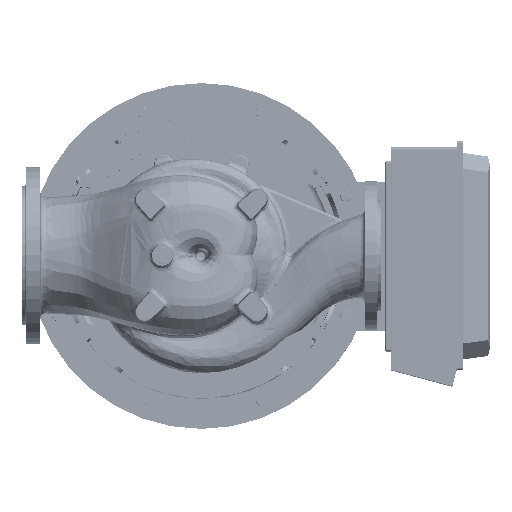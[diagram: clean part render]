
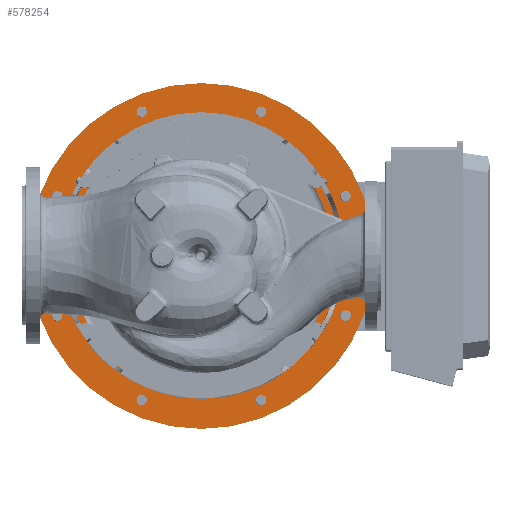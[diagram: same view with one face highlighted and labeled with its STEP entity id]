
A CAD part, top view. The second image highlights one B-rep face of the part: STEP entity #578254.
In plain terms, the highlighted planar face has unit normal (0, 0, 1) as drawn and (0, 1, 0) by its records, which use the part's own axes.
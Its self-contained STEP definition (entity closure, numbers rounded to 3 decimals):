
#577793=CARTESIAN_POINT('',(0.,25.,0.));
#577794=DIRECTION('',(0.,-1.,0.));
#577795=DIRECTION('',(1.,0.,0.));
#577796=AXIS2_PLACEMENT_3D('',#577793,#577794,#577795);
#577798=CARTESIAN_POINT('',(0.,25.,0.));
#577799=DIRECTION('',(0.,-1.,0.));
#577800=DIRECTION('',(-1.,0.,0.));
#577801=AXIS2_PLACEMENT_3D('',#577798,#577799,#577800);
#577803=CARTESIAN_POINT('',(0.,25.,0.));
#577804=DIRECTION('',(0.,1.,0.));
#577805=DIRECTION('',(0.,0.,1.));
#577806=AXIS2_PLACEMENT_3D('',#577803,#577804,#577805);
#577808=CARTESIAN_POINT('',(0.,25.,0.));
#577809=DIRECTION('',(0.,1.,0.));
#577810=DIRECTION('',(0.,0.,-1.));
#577811=AXIS2_PLACEMENT_3D('',#577808,#577809,#577810);
#577813=CARTESIAN_POINT('',(114.805,25.,277.164));
#577814=DIRECTION('',(0.,-1.,0.));
#577815=DIRECTION('',(-1.,0.,0.));
#577816=AXIS2_PLACEMENT_3D('',#577813,#577814,#577815);
#577818=CARTESIAN_POINT('',(114.805,25.,277.164));
#577819=DIRECTION('',(0.,-1.,0.));
#577820=DIRECTION('',(1.,0.,0.));
#577821=AXIS2_PLACEMENT_3D('',#577818,#577819,#577820);
#577823=CARTESIAN_POINT('',(277.164,25.,114.805));
#577824=DIRECTION('',(0.,-1.,0.));
#577825=DIRECTION('',(-0.707,0.,0.707));
#577826=AXIS2_PLACEMENT_3D('',#577823,#577824,#577825);
#577828=CARTESIAN_POINT('',(277.164,25.,114.805));
#577829=DIRECTION('',(0.,-1.,0.));
#577830=DIRECTION('',(0.707,0.,-0.707));
#577831=AXIS2_PLACEMENT_3D('',#577828,#577829,#577830);
#577833=CARTESIAN_POINT('',(277.164,25.,-114.805));
#577834=DIRECTION('',(0.,-1.,0.));
#577835=DIRECTION('',(0.,0.,1.));
#577836=AXIS2_PLACEMENT_3D('',#577833,#577834,#577835);
#577838=CARTESIAN_POINT('',(277.164,25.,-114.805));
#577839=DIRECTION('',(0.,-1.,0.));
#577840=DIRECTION('',(0.,0.,-1.));
#577841=AXIS2_PLACEMENT_3D('',#577838,#577839,#577840);
#577843=CARTESIAN_POINT('',(114.805,25.,-277.164));
#577844=DIRECTION('',(0.,-1.,0.));
#577845=DIRECTION('',(0.707,0.,0.707));
#577846=AXIS2_PLACEMENT_3D('',#577843,#577844,#577845);
#577848=CARTESIAN_POINT('',(114.805,25.,-277.164));
#577849=DIRECTION('',(0.,-1.,0.));
#577850=DIRECTION('',(-0.707,0.,-0.707));
#577851=AXIS2_PLACEMENT_3D('',#577848,#577849,#577850);
#577853=CARTESIAN_POINT('',(-114.805,25.,-277.164));
#577854=DIRECTION('',(0.,-1.,0.));
#577855=DIRECTION('',(1.,0.,0.));
#577856=AXIS2_PLACEMENT_3D('',#577853,#577854,#577855);
#577858=CARTESIAN_POINT('',(-114.805,25.,-277.164));
#577859=DIRECTION('',(0.,-1.,0.));
#577860=DIRECTION('',(-1.,0.,0.));
#577861=AXIS2_PLACEMENT_3D('',#577858,#577859,#577860);
#577863=CARTESIAN_POINT('',(-277.164,25.,-114.805));
#577864=DIRECTION('',(0.,-1.,0.));
#577865=DIRECTION('',(0.707,0.,-0.707));
#577866=AXIS2_PLACEMENT_3D('',#577863,#577864,#577865);
#577868=CARTESIAN_POINT('',(-277.164,25.,-114.805));
#577869=DIRECTION('',(0.,-1.,0.));
#577870=DIRECTION('',(-0.707,0.,0.707));
#577871=AXIS2_PLACEMENT_3D('',#577868,#577869,#577870);
#577873=CARTESIAN_POINT('',(-277.164,25.,114.805));
#577874=DIRECTION('',(0.,-1.,0.));
#577875=DIRECTION('',(0.,0.,-1.));
#577876=AXIS2_PLACEMENT_3D('',#577873,#577874,#577875);
#577878=CARTESIAN_POINT('',(-277.164,25.,114.805));
#577879=DIRECTION('',(0.,-1.,0.));
#577880=DIRECTION('',(0.,0.,1.));
#577881=AXIS2_PLACEMENT_3D('',#577878,#577879,#577880);
#577883=CARTESIAN_POINT('',(-114.805,25.,277.164));
#577884=DIRECTION('',(0.,-1.,0.));
#577885=DIRECTION('',(-0.707,0.,-0.707));
#577886=AXIS2_PLACEMENT_3D('',#577883,#577884,#577885);
#577888=CARTESIAN_POINT('',(-114.805,25.,277.164));
#577889=DIRECTION('',(0.,-1.,0.));
#577890=DIRECTION('',(0.707,0.,0.707));
#577891=AXIS2_PLACEMENT_3D('',#577888,#577889,#577890);
#578101=CARTESIAN_POINT('',(254.,25.,0.));
#578102=CARTESIAN_POINT('',(-254.,25.,0.));
#578103=VERTEX_POINT('',#578101);
#578104=VERTEX_POINT('',#578102);
#578117=CARTESIAN_POINT('',(106.055,25.,277.164));
#578118=CARTESIAN_POINT('',(123.555,25.,277.164));
#578119=VERTEX_POINT('',#578117);
#578120=VERTEX_POINT('',#578118);
#578125=CARTESIAN_POINT('',(270.977,25.,120.992));
#578126=CARTESIAN_POINT('',(283.351,25.,108.618));
#578127=VERTEX_POINT('',#578125);
#578128=VERTEX_POINT('',#578126);
#578133=CARTESIAN_POINT('',(277.164,25.,-106.055));
#578134=CARTESIAN_POINT('',(277.164,25.,-123.555));
#578135=VERTEX_POINT('',#578133);
#578136=VERTEX_POINT('',#578134);
#578141=CARTESIAN_POINT('',(120.992,25.,-270.977));
#578142=CARTESIAN_POINT('',(108.618,25.,-283.351));
#578143=VERTEX_POINT('',#578141);
#578144=VERTEX_POINT('',#578142);
#578149=CARTESIAN_POINT('',(-106.055,25.,-277.164));
#578150=CARTESIAN_POINT('',(-123.555,25.,-277.164));
#578151=VERTEX_POINT('',#578149);
#578152=VERTEX_POINT('',#578150);
#578157=CARTESIAN_POINT('',(-270.977,25.,-120.992));
#578158=CARTESIAN_POINT('',(-283.351,25.,-108.618));
#578159=VERTEX_POINT('',#578157);
#578160=VERTEX_POINT('',#578158);
#578165=CARTESIAN_POINT('',(-277.164,25.,106.055));
#578166=CARTESIAN_POINT('',(-277.164,25.,123.555));
#578167=VERTEX_POINT('',#578165);
#578168=VERTEX_POINT('',#578166);
#578173=CARTESIAN_POINT('',(-120.992,25.,270.977));
#578174=CARTESIAN_POINT('',(-108.618,25.,283.351));
#578175=VERTEX_POINT('',#578173);
#578176=VERTEX_POINT('',#578174);
#578181=CARTESIAN_POINT('',(0.,25.,332.5));
#578182=CARTESIAN_POINT('',(0.,25.,-332.5));
#578183=VERTEX_POINT('',#578181);
#578184=VERTEX_POINT('',#578182);
#578189=CARTESIAN_POINT('',(0.,25.,0.));
#578190=DIRECTION('',(0.,1.,0.));
#578191=DIRECTION('',(1.,0.,0.));
#578192=AXIS2_PLACEMENT_3D('',#578189,#578190,#578191);
#578193=PLANE('',#578192);
#578195=ORIENTED_EDGE('',*,*,#578194,.F.);
#578197=ORIENTED_EDGE('',*,*,#578196,.F.);
#578198=EDGE_LOOP('',(#578195,#578197));
#578199=FACE_OUTER_BOUND('',#578198,.F.);
#578201=ORIENTED_EDGE('',*,*,#578200,.F.);
#578203=ORIENTED_EDGE('',*,*,#578202,.F.);
#578204=EDGE_LOOP('',(#578201,#578203));
#578205=FACE_BOUND('',#578204,.F.);
#578207=ORIENTED_EDGE('',*,*,#578206,.F.);
#578209=ORIENTED_EDGE('',*,*,#578208,.F.);
#578210=EDGE_LOOP('',(#578207,#578209));
#578211=FACE_BOUND('',#578210,.F.);
#578213=ORIENTED_EDGE('',*,*,#578212,.F.);
#578215=ORIENTED_EDGE('',*,*,#578214,.F.);
#578216=EDGE_LOOP('',(#578213,#578215));
#578217=FACE_BOUND('',#578216,.F.);
#578219=ORIENTED_EDGE('',*,*,#578218,.F.);
#578221=ORIENTED_EDGE('',*,*,#578220,.F.);
#578222=EDGE_LOOP('',(#578219,#578221));
#578223=FACE_BOUND('',#578222,.F.);
#578225=ORIENTED_EDGE('',*,*,#578224,.F.);
#578227=ORIENTED_EDGE('',*,*,#578226,.F.);
#578228=EDGE_LOOP('',(#578225,#578227));
#578229=FACE_BOUND('',#578228,.F.);
#578231=ORIENTED_EDGE('',*,*,#578230,.F.);
#578233=ORIENTED_EDGE('',*,*,#578232,.F.);
#578234=EDGE_LOOP('',(#578231,#578233));
#578235=FACE_BOUND('',#578234,.F.);
#578237=ORIENTED_EDGE('',*,*,#578236,.F.);
#578239=ORIENTED_EDGE('',*,*,#578238,.F.);
#578240=EDGE_LOOP('',(#578237,#578239));
#578241=FACE_BOUND('',#578240,.F.);
#578243=ORIENTED_EDGE('',*,*,#578242,.F.);
#578245=ORIENTED_EDGE('',*,*,#578244,.F.);
#578246=EDGE_LOOP('',(#578243,#578245));
#578247=FACE_BOUND('',#578246,.F.);
#578249=ORIENTED_EDGE('',*,*,#578248,.F.);
#578251=ORIENTED_EDGE('',*,*,#578250,.F.);
#578252=EDGE_LOOP('',(#578249,#578251));
#578253=FACE_BOUND('',#578252,.F.);
#578254=ADVANCED_FACE('',(#578199,#578205,#578211,#578217,#578223,#578229,
#578235,#578241,#578247,#578253),#578193,.T.);
#577797=CIRCLE('',#577796,254.);
#577802=CIRCLE('',#577801,254.);
#577807=CIRCLE('',#577806,332.5);
#577812=CIRCLE('',#577811,332.5);
#577817=CIRCLE('',#577816,8.75);
#577822=CIRCLE('',#577821,8.75);
#577827=CIRCLE('',#577826,8.75);
#577832=CIRCLE('',#577831,8.75);
#577837=CIRCLE('',#577836,8.75);
#577842=CIRCLE('',#577841,8.75);
#577847=CIRCLE('',#577846,8.75);
#577852=CIRCLE('',#577851,8.75);
#577857=CIRCLE('',#577856,8.75);
#577862=CIRCLE('',#577861,8.75);
#577867=CIRCLE('',#577866,8.75);
#577872=CIRCLE('',#577871,8.75);
#577877=CIRCLE('',#577876,8.75);
#577882=CIRCLE('',#577881,8.75);
#577887=CIRCLE('',#577886,8.75);
#577892=CIRCLE('',#577891,8.75);
#578194=EDGE_CURVE('',#578183,#578184,#577807,.T.);
#578196=EDGE_CURVE('',#578184,#578183,#577812,.T.);
#578200=EDGE_CURVE('',#578103,#578104,#577797,.T.);
#578202=EDGE_CURVE('',#578104,#578103,#577802,.T.);
#578206=EDGE_CURVE('',#578119,#578120,#577817,.T.);
#578208=EDGE_CURVE('',#578120,#578119,#577822,.T.);
#578212=EDGE_CURVE('',#578127,#578128,#577827,.T.);
#578214=EDGE_CURVE('',#578128,#578127,#577832,.T.);
#578218=EDGE_CURVE('',#578135,#578136,#577837,.T.);
#578220=EDGE_CURVE('',#578136,#578135,#577842,.T.);
#578224=EDGE_CURVE('',#578143,#578144,#577847,.T.);
#578226=EDGE_CURVE('',#578144,#578143,#577852,.T.);
#578230=EDGE_CURVE('',#578151,#578152,#577857,.T.);
#578232=EDGE_CURVE('',#578152,#578151,#577862,.T.);
#578236=EDGE_CURVE('',#578159,#578160,#577867,.T.);
#578238=EDGE_CURVE('',#578160,#578159,#577872,.T.);
#578242=EDGE_CURVE('',#578167,#578168,#577877,.T.);
#578244=EDGE_CURVE('',#578168,#578167,#577882,.T.);
#578248=EDGE_CURVE('',#578175,#578176,#577887,.T.);
#578250=EDGE_CURVE('',#578176,#578175,#577892,.T.);
